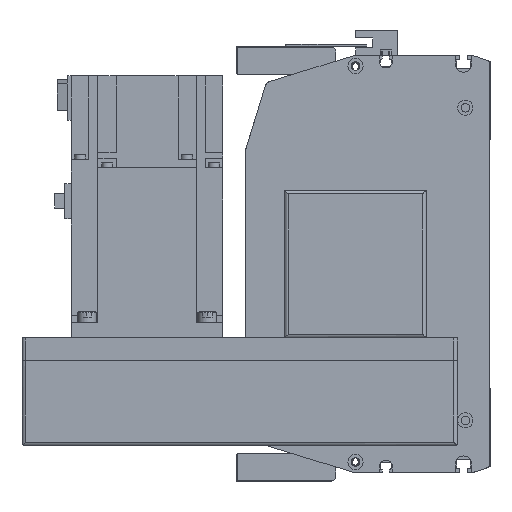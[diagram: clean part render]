
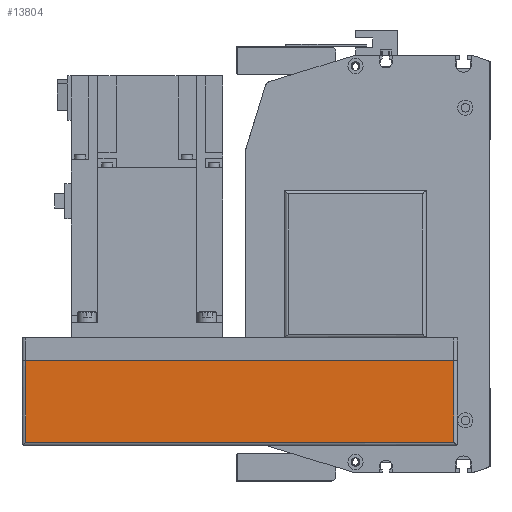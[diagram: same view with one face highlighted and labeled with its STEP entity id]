
A CAD part, left-side view. The second image highlights one B-rep face of the part: STEP entity #13804.
In plain terms, the highlighted planar face has unit normal (-1, 0, 0) as drawn and (0, -1, 0) by its records, which use the part's own axes.
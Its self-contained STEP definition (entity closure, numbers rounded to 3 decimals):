
#2243=ORIENTED_EDGE('',*,*,#5574,.F.);
#2244=ORIENTED_EDGE('',*,*,#5577,.T.);
#2245=ORIENTED_EDGE('',*,*,#5578,.T.);
#2246=ORIENTED_EDGE('',*,*,#5579,.F.);
#5574=EDGE_CURVE('',#7367,#7368,#8799,.T.);
#5577=EDGE_CURVE('',#7367,#7370,#8801,.T.);
#5578=EDGE_CURVE('',#7370,#7371,#8802,.T.);
#5579=EDGE_CURVE('',#7368,#7371,#8803,.T.);
#7367=VERTEX_POINT('',#21465);
#7368=VERTEX_POINT('',#21467);
#7370=VERTEX_POINT('',#21473);
#7371=VERTEX_POINT('',#21475);
#8799=LINE('',#21466,#10136);
#8801=LINE('',#21472,#10138);
#8802=LINE('',#21474,#10139);
#8803=LINE('',#21476,#10140);
#10136=VECTOR('',#17164,1000.);
#10138=VECTOR('',#17170,1000.);
#10139=VECTOR('',#17171,1000.);
#10140=VECTOR('',#17172,1000.);
#11298=EDGE_LOOP('',(#2243,#2244,#2245,#2246));
#12323=FACE_BOUND('',#11298,.T.);
#13204=PLANE('',#14796);
#13804=ADVANCED_FACE('',(#12323),#13204,.T.);
#14796=AXIS2_PLACEMENT_3D('',#21471,#17168,#17169);
#17164=DIRECTION('',(0.,0.,1.));
#17168=DIRECTION('',(0.,-1.,0.));
#17169=DIRECTION('',(0.,0.,-1.));
#17170=DIRECTION('',(1.,0.,0.));
#17171=DIRECTION('',(0.,0.,1.));
#17172=DIRECTION('',(1.,0.,0.));
#21465=CARTESIAN_POINT('',(-228.,-54.,-55.));
#21466=CARTESIAN_POINT('',(-228.,-54.,-57.));
#21467=CARTESIAN_POINT('',(-228.,-54.,-12.));
#21471=CARTESIAN_POINT('',(-228.,-54.,-57.));
#21472=CARTESIAN_POINT('',(-230.,-54.,-55.));
#21473=CARTESIAN_POINT('',(-2.,-54.,-55.));
#21474=CARTESIAN_POINT('',(-2.,-54.,-57.));
#21475=CARTESIAN_POINT('',(-2.,-54.,-12.));
#21476=CARTESIAN_POINT('',(-228.,-54.,-12.));
